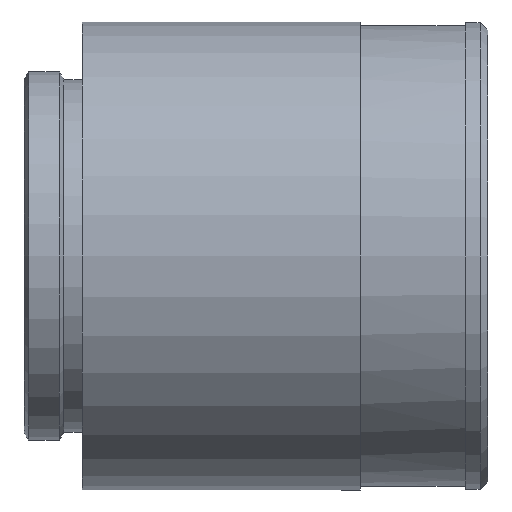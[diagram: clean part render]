
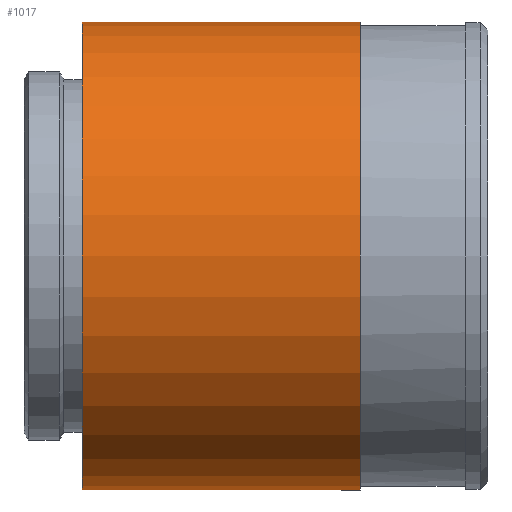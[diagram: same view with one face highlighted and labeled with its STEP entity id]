
A CAD part, left-side view. The second image highlights one B-rep face of the part: STEP entity #1017.
In plain terms, the highlighted cylindrical face has radius 15.875 mm (diameter 31.75 mm), a partial arc.
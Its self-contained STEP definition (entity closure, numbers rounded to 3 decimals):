
#125 = CARTESIAN_POINT ( 'NONE',  ( 0., 23.411, 0. ) ) ;
#132 = DIRECTION ( 'NONE',  ( 0., 0., 1. ) ) ;
#137 = DIRECTION ( 'NONE',  ( 0., 1., 0. ) ) ;
#141 = DIRECTION ( 'NONE',  ( 0., 1., 0. ) ) ;
#142 = CARTESIAN_POINT ( 'NONE',  ( 0., 4.547, 0. ) ) ;
#205 = DIRECTION ( 'NONE',  ( 0., 1., 0. ) ) ;
#211 = LINE ( 'NONE', #226, #393 ) ;
#215 = DIRECTION ( 'NONE',  ( 0., 1., 0. ) ) ;
#216 = CARTESIAN_POINT ( 'NONE',  ( 0., 0., 15.875 ) ) ;
#217 = LINE ( 'NONE', #216, #387 ) ;
#225 = DIRECTION ( 'NONE',  ( 0., 0., 1. ) ) ;
#226 = CARTESIAN_POINT ( 'NONE',  ( 0., 0., -15.875 ) ) ;
#387 = VECTOR ( 'NONE', #215, 1000. ) ;
#393 = VECTOR ( 'NONE', #205, 1000. ) ;
#395 = AXIS2_PLACEMENT_3D ( 'NONE', #125, #137, #132 ) ;
#397 = AXIS2_PLACEMENT_3D ( 'NONE', #142, #141, #225 ) ;
#400 = CIRCLE ( 'NONE', #395, 15.875 ) ;
#410 = CIRCLE ( 'NONE', #397, 15.875 ) ;
#510 = AXIS2_PLACEMENT_3D ( 'NONE', #536, #534, #529 ) ;
#529 = DIRECTION ( 'NONE',  ( 0., 0., 1. ) ) ;
#530 = FACE_OUTER_BOUND ( 'NONE', #1317, .T. ) ;
#531 = CYLINDRICAL_SURFACE ( 'NONE', #510, 15.875 ) ;
#534 = DIRECTION ( 'NONE',  ( 0., 1., 0. ) ) ;
#536 = CARTESIAN_POINT ( 'NONE',  ( 0., 0., 0. ) ) ;
#961 = CARTESIAN_POINT ( 'NONE',  ( 0., 23.411, -15.875 ) ) ;
#972 = CARTESIAN_POINT ( 'NONE',  ( 0., 23.411, 15.875 ) ) ;
#978 = CARTESIAN_POINT ( 'NONE',  ( 0., 4.547, 15.875 ) ) ;
#979 = CARTESIAN_POINT ( 'NONE',  ( 0., 4.547, -15.875 ) ) ;
#1017 = ADVANCED_FACE ( 'NONE', ( #530 ), #531, .T. ) ;
#1094 = EDGE_CURVE ( 'NONE', #1197, #1200, #410, .T. ) ;
#1095 = EDGE_CURVE ( 'NONE', #1206, #1196, #400, .T. ) ;
#1102 = EDGE_CURVE ( 'NONE', #1200, #1196, #217, .T. ) ;
#1104 = EDGE_CURVE ( 'NONE', #1197, #1206, #211, .T. ) ;
#1196 = VERTEX_POINT ( 'NONE', #972 ) ;
#1197 = VERTEX_POINT ( 'NONE', #979 ) ;
#1200 = VERTEX_POINT ( 'NONE', #978 ) ;
#1206 = VERTEX_POINT ( 'NONE', #961 ) ;
#1306 = ORIENTED_EDGE ( 'NONE', *, *, #1104, .F. ) ;
#1307 = ORIENTED_EDGE ( 'NONE', *, *, #1094, .T. ) ;
#1311 = ORIENTED_EDGE ( 'NONE', *, *, #1102, .T. ) ;
#1315 = ORIENTED_EDGE ( 'NONE', *, *, #1095, .F. ) ;
#1317 = EDGE_LOOP ( 'NONE', ( #1306, #1307, #1311, #1315 ) ) ;
